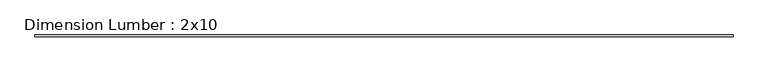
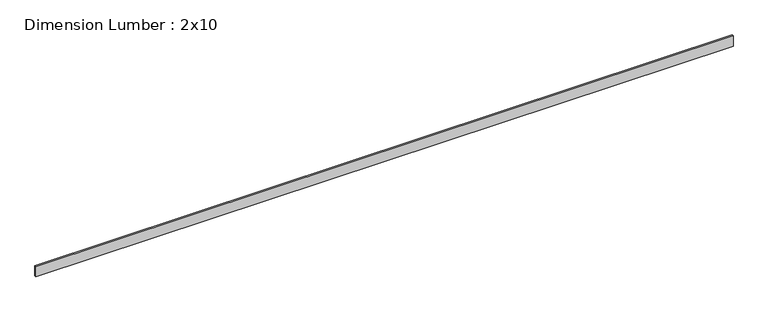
"""IFC4 building model written with IfcOpenShell, lengths in millimetres: beam geometry, Dimension Lumber : 2x10."""

from ifc_helpers import new_model, si_unit, frame, origin, place, context, project, spatial, polyline, outline, extrude, source, transform, mapped, element, save


def dimension_lumber_2x10_eca2d837(model_context):
    return source(origin(), model_context, "Body", "SweptSolid", [
        extrude(outline(polyline([(6283.755989, -19.05), (-9019.871011, -19.05), (-9019.871011, 19.05), (6283.755989, 19.05), (6283.755989, -19.05)])), frame((0.0, 0.0, -117.475), z_axis=(0.0, 0.0, 1.0), x_axis=(1.0, 0.0, 0.0)), (0.0, 0.0, 1.0), 234.95),
    ])


if __name__ == "__main__":
    model = new_model("IFC4")
    model_context = context("Model", 3, world=origin())
    ifc_project = project(units=[si_unit("LENGTHUNIT", "METRE", prefix="MILLI")], contexts=[model_context])
    site = spatial("IfcSite", under=ifc_project)
    building = spatial("IfcBuilding", under=site)
    placement = place(None, origin())
    dimension_lumber_2x10_shape = dimension_lumber_2x10_eca2d837(model_context)
    element("IfcBeam", 1, ObjectType="Dimension Lumber : 2x10", at=placement, inside=building, context=model_context, shape_type="MappedRepresentation", body=[
        mapped(dimension_lumber_2x10_shape, transform((0.0, 0.0, 0.0), x_axis=(1.0, 0.0, 0.0), y_axis=(0.0, 1.0, 0.0), z_axis=(0.0, 0.0, 1.0))),
    ])
    save(model, "model.ifc")
